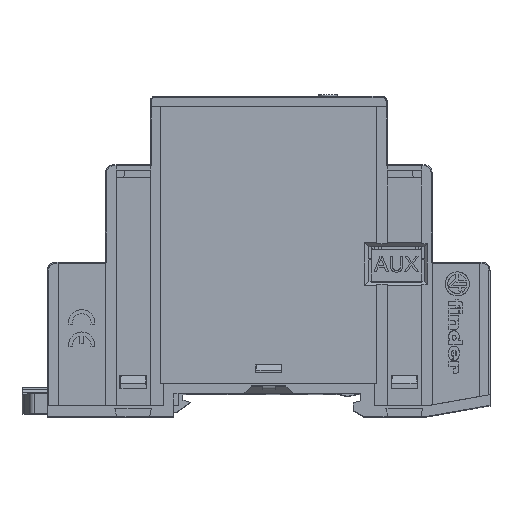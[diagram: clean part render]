
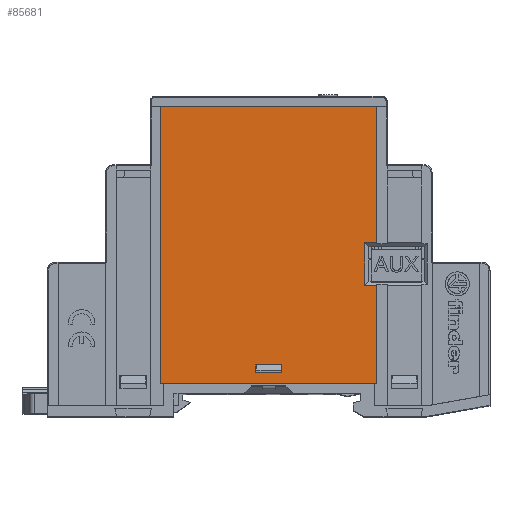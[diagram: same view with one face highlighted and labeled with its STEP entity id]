
A CAD part, top view. The second image highlights one B-rep face of the part: STEP entity #85681.
In plain terms, the highlighted planar face has unit normal (0, 0, 1).
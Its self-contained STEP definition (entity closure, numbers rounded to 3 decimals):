
#11221=LINE('',#149848,#22405);
#11238=LINE('',#149881,#22422);
#11291=LINE('',#150012,#22475);
#11333=LINE('',#150125,#22517);
#11335=LINE('',#150129,#22519);
#11336=LINE('',#150132,#22520);
#11337=LINE('',#150134,#22521);
#11338=LINE('',#150136,#22522);
#11339=LINE('',#150137,#22523);
#11340=LINE('',#150139,#22524);
#11341=LINE('',#150140,#22525);
#11342=LINE('',#150141,#22526);
#22405=VECTOR('',#119037,1000.);
#22422=VECTOR('',#119064,1000.);
#22475=VECTOR('',#119169,1000.);
#22517=VECTOR('',#119231,1000.);
#22519=VECTOR('',#119235,1000.);
#22520=VECTOR('',#119236,1000.);
#22521=VECTOR('',#119237,1000.);
#22522=VECTOR('',#119238,1000.);
#22523=VECTOR('',#119239,1000.);
#22524=VECTOR('',#119240,1000.);
#22525=VECTOR('',#119241,1000.);
#22526=VECTOR('',#119242,1000.);
#26553=PLANE('',#98387);
#47370=ORIENTED_EDGE('',*,*,#60773,.T.);
#47371=ORIENTED_EDGE('',*,*,#60774,.F.);
#47372=ORIENTED_EDGE('',*,*,#60775,.F.);
#47373=ORIENTED_EDGE('',*,*,#60776,.F.);
#47374=ORIENTED_EDGE('',*,*,#60771,.F.);
#47375=ORIENTED_EDGE('',*,*,#60777,.F.);
#47376=ORIENTED_EDGE('',*,*,#60778,.F.);
#47377=ORIENTED_EDGE('',*,*,#60644,.F.);
#47378=ORIENTED_EDGE('',*,*,#60661,.F.);
#47379=ORIENTED_EDGE('',*,*,#60779,.F.);
#47380=ORIENTED_EDGE('',*,*,#60726,.T.);
#47381=ORIENTED_EDGE('',*,*,#60780,.F.);
#60644=EDGE_CURVE('',#70227,#70228,#11221,.T.);
#60661=EDGE_CURVE('',#70239,#70227,#11238,.T.);
#60726=EDGE_CURVE('',#70291,#70290,#11291,.T.);
#60771=EDGE_CURVE('',#70321,#70322,#11333,.T.);
#60773=EDGE_CURVE('',#70323,#70324,#11335,.T.);
#60774=EDGE_CURVE('',#70325,#70324,#11336,.T.);
#60775=EDGE_CURVE('',#70326,#70325,#11337,.T.);
#60776=EDGE_CURVE('',#70323,#70326,#11338,.T.);
#60777=EDGE_CURVE('',#70327,#70321,#11339,.T.);
#60778=EDGE_CURVE('',#70228,#70327,#11340,.T.);
#60779=EDGE_CURVE('',#70291,#70239,#11341,.T.);
#60780=EDGE_CURVE('',#70322,#70290,#11342,.T.);
#70227=VERTEX_POINT('',#149847);
#70228=VERTEX_POINT('',#149849);
#70239=VERTEX_POINT('',#149882);
#70290=VERTEX_POINT('',#150011);
#70291=VERTEX_POINT('',#150013);
#70321=VERTEX_POINT('',#150124);
#70322=VERTEX_POINT('',#150126);
#70323=VERTEX_POINT('',#150130);
#70324=VERTEX_POINT('',#150131);
#70325=VERTEX_POINT('',#150133);
#70326=VERTEX_POINT('',#150135);
#70327=VERTEX_POINT('',#150138);
#76906=EDGE_LOOP('',(#47370,#47371,#47372,#47373));
#76907=EDGE_LOOP('',(#47374,#47375,#47376,#47377,#47378,#47379,#47380,#47381));
#81526=FACE_BOUND('',#76906,.T.);
#81527=FACE_BOUND('',#76907,.T.);
#85681=ADVANCED_FACE('',(#81526,#81527),#26553,.T.);
#98387=AXIS2_PLACEMENT_3D('',#150128,#119233,#119234);
#119037=DIRECTION('',(-1.,0.,0.));
#119064=DIRECTION('',(0.,-1.,0.));
#119169=DIRECTION('',(0.,-1.,0.));
#119231=DIRECTION('',(0.,-1.,0.));
#119233=DIRECTION('',(0.,0.,1.));
#119234=DIRECTION('',(1.,0.,0.));
#119235=DIRECTION('',(0.,-1.,0.));
#119236=DIRECTION('',(1.,0.,0.));
#119237=DIRECTION('',(0.,-1.,0.));
#119238=DIRECTION('',(-1.,0.,0.));
#119239=DIRECTION('',(1.,0.,0.));
#119240=DIRECTION('',(0.,-1.,0.));
#119241=DIRECTION('',(1.,0.,0.));
#119242=DIRECTION('',(-1.,0.,0.));
#149847=CARTESIAN_POINT('',(20.5,-20.3,-100.));
#149848=CARTESIAN_POINT('',(-20.501,-20.3,-100.));
#149849=CARTESIAN_POINT('',(18.2,-20.3,-100.));
#149881=CARTESIAN_POINT('',(20.5,5.5,-100.));
#149882=CARTESIAN_POINT('',(20.5,5.5,-100.));
#150011=CARTESIAN_POINT('',(-20.5,-47.,-100.));
#150012=CARTESIAN_POINT('',(-20.5,5.5,-100.));
#150013=CARTESIAN_POINT('',(-20.5,5.5,-100.));
#150124=CARTESIAN_POINT('',(20.5,-28.4,-100.));
#150125=CARTESIAN_POINT('',(20.5,5.5,-100.));
#150126=CARTESIAN_POINT('',(20.5,-47.,-100.));
#150128=CARTESIAN_POINT('',(-20.501,-47.001,-100.));
#150129=CARTESIAN_POINT('',(2.5,-43.5,-100.));
#150130=CARTESIAN_POINT('',(2.5,-43.5,-100.));
#150131=CARTESIAN_POINT('',(2.5,-45.,-100.));
#150132=CARTESIAN_POINT('',(-2.5,-45.,-100.));
#150133=CARTESIAN_POINT('',(-2.5,-45.,-100.));
#150134=CARTESIAN_POINT('',(-2.5,-43.5,-100.));
#150135=CARTESIAN_POINT('',(-2.5,-43.5,-100.));
#150136=CARTESIAN_POINT('',(2.5,-43.5,-100.));
#150137=CARTESIAN_POINT('',(-20.501,-28.4,-100.));
#150138=CARTESIAN_POINT('',(18.2,-28.4,-100.));
#150139=CARTESIAN_POINT('',(18.2,-47.001,-100.));
#150140=CARTESIAN_POINT('',(-20.5,5.5,-100.));
#150141=CARTESIAN_POINT('',(20.5,-47.,-100.));
